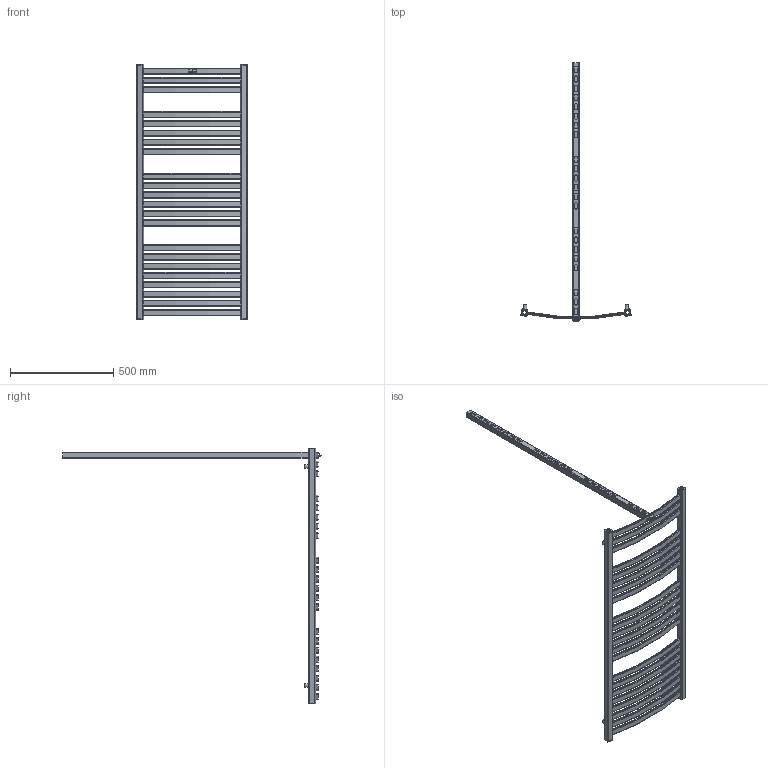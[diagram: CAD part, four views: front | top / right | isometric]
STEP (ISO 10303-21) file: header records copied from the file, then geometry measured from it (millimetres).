
FILE_DESCRIPTION( ( 'Unknown' ), '1' );
FILE_NAME( 'D:/Alplast sp. j/Witryna zespoBu - Projekty/Archiwum/Grzejniki Archiwum/Projekty/STANDARD/AK-EL/AK5-500EL.stp', 'Unknown', ( 'Unknown' ), ( 'Unknown' ), 'PSStep 10.1', 'Unknown', ' ' );
FILE_SCHEMA( ( 'AUTOMOTIVE_DESIGN { 1 0 10303 214 1 1 1 1 }' ) );
Length unit declared in the file: millimetre
Products named in the file (5): Assem1; zaslepka kwadrat otwor; AK5-EPEL; tulejka kat 12stopni; kana³  poziomy lukowy L-500
Bounding box: 534.77 x 1251 x 1240 mm (x, y, z)
Volume: 1769403.2 mm3; surface area: 2371492.4 mm2
Topology: 36 solids, 36 shells, 1136 faces, 3182 edges, 2128 vertices
Faces by surface type: plane 502, cylinder 440, torus 194
Full cylindrical faces by diameter (mm): 16 x5, 18 x5, 18.631 x5, 23 x5
Entity records: 10214 total; most frequent: DIRECTION 1486, CARTESIAN_POINT 1421, ORIENTED_EDGE 1372, EDGE_CURVE 686, AXIS2_PLACEMENT_3D 527, VERTEX_POINT 462, LINE 432, VECTOR 432
